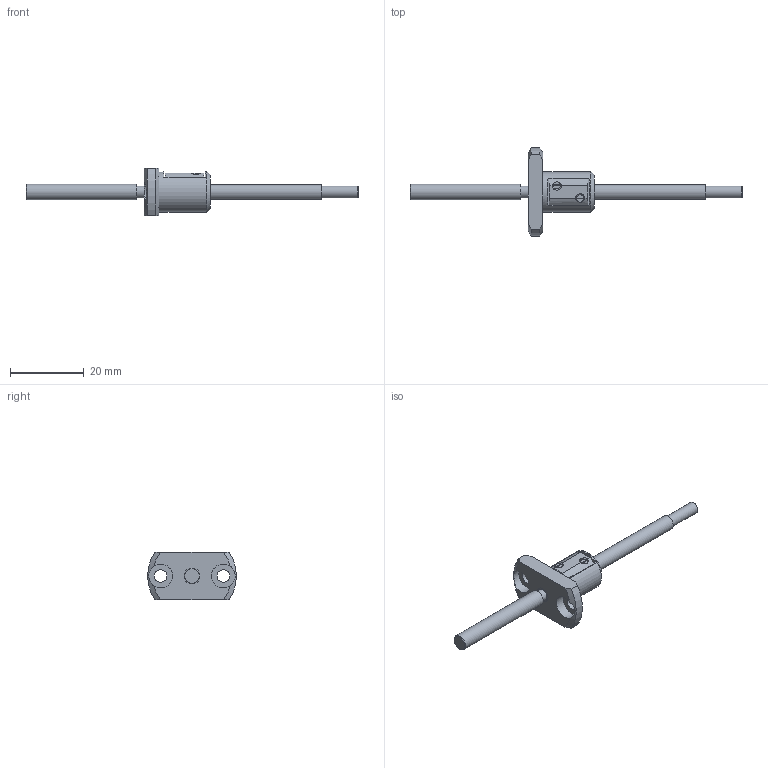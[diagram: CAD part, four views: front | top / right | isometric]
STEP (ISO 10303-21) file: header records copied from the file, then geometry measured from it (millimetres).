
FILE_DESCRIPTION(/* description */ ('STEP AP203'),/* implementation_level */ '2;1');
FILE_NAME(/* name */ 'MBF0401-3.7GT+90LC3A(0)',/* time_stamp */ '2024-07-15T08:03:09+02:00',/* author */ ('License CC BY-ND 4.0'),/* organization */ ('CADENAS'),/* preprocessor_version */ 'ST-DEVELOPER v19.3',/* originating_system */ 'PARTsolutions',/* authorisation */ ' ');
FILE_SCHEMA (('CONFIG_CONTROL_DESIGN'));
Length unit declared in the file: millimetre
Products named in the file (3): MBF0401-3.7GT+90LC3A(0); MBF0401-3.7GT+90LC3A(.0)_shaft; MBF 0401-3.7_nut
Assembly tree (2 placements, depth 2):
  MBF0401-3.7GT+90LC3A(0)
    MBF0401-3.7GT+90LC3A(.0)_shaft
    MBF 0401-3.7_nut
Bounding box: 90 x 23.92 x 13 mm (x, y, z)
Volume: 3161.6 mm3; surface area: 2774.6 mm2
Topology: 2 solids, 2 shells, 61 faces, 150 edges, 99 vertices
Faces by surface type: plane 32, cylinder 18, cone 11
Full cylindrical faces by diameter (mm): 3.2 x2, 3.4 x2, 4 x2, 4.3 x1, 6.5 x2, 11 x1
Entity records: 1857 total; most frequent: CARTESIAN_POINT 400, DIRECTION 284, ORIENTED_EDGE 270, EDGE_CURVE 135, AXIS2_PLACEMENT_3D 117, VERTEX_POINT 97, EDGE_LOOP 86, FACE_BOUND 86
